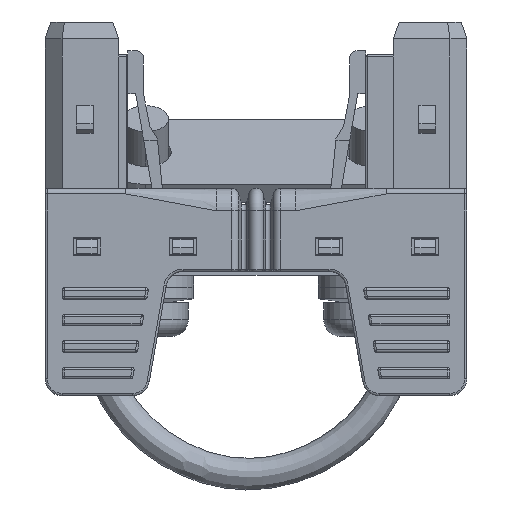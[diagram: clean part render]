
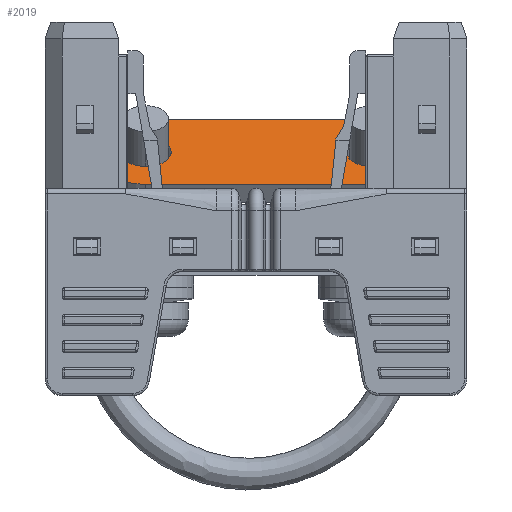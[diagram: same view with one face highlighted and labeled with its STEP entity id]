
A CAD part, front view. The second image highlights one B-rep face of the part: STEP entity #2019.
In plain terms, the highlighted planar face has unit normal (0, -0.574, 0.819).
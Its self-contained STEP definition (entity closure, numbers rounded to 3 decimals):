
#1658=CARTESIAN_POINT('',(10.25,166.862,-143.452));
#1659=DIRECTION('',(0.,0.574,-0.819));
#1660=DIRECTION('',(0.,0.819,0.574));
#1661=AXIS2_PLACEMENT_3D('',#1658,#1659,#1660);
#1663=CARTESIAN_POINT('',(-9.75,166.862,
-143.452));
#1664=DIRECTION('',(0.,0.574,-0.819));
#1665=DIRECTION('',(0.,-0.819,-0.574));
#1666=AXIS2_PLACEMENT_3D('',#1663,#1664,#1665);
#1668=CARTESIAN_POINT('',(10.25,166.862,-143.452));
#1669=DIRECTION('',(0.,-0.574,0.819));
#1670=DIRECTION('',(1.,0.,0.));
#1671=AXIS2_PLACEMENT_3D('',#1668,#1669,#1670);
#1673=CARTESIAN_POINT('',(10.25,166.862,-143.452));
#1674=DIRECTION('',(0.,-0.574,0.819));
#1675=DIRECTION('',(-1.,0.,0.));
#1676=AXIS2_PLACEMENT_3D('',#1673,#1674,#1675);
#1678=CARTESIAN_POINT('',(-9.75,166.862,
-143.452));
#1679=DIRECTION('',(0.,-0.574,0.819));
#1680=DIRECTION('',(1.,0.,0.));
#1681=AXIS2_PLACEMENT_3D('',#1678,#1679,#1680);
#1683=CARTESIAN_POINT('',(-9.75,166.862,
-143.452));
#1684=DIRECTION('',(0.,-0.574,0.819));
#1685=DIRECTION('',(-1.,0.,0.));
#1686=AXIS2_PLACEMENT_3D('',#1683,#1684,#1685);
#1692=DIRECTION('',(-1.,0.,0.));
#1693=VECTOR('',#1692,20.);
#1694=CARTESIAN_POINT('',(10.25,162.766,-146.32));
#1695=LINE('',#1694,#1693);
#1708=DIRECTION('',(1.,0.,0.));
#1709=VECTOR('',#1708,20.);
#1710=CARTESIAN_POINT('',(-9.75,170.958,
-140.584));
#1711=LINE('',#1710,#1709);
#1808=CARTESIAN_POINT('',(10.25,170.958,-140.584));
#1809=CARTESIAN_POINT('',(10.25,162.766,-146.32));
#1810=VERTEX_POINT('',#1808);
#1811=VERTEX_POINT('',#1809);
#1812=CARTESIAN_POINT('',(-9.75,170.958,
-140.584));
#1813=VERTEX_POINT('',#1812);
#1814=CARTESIAN_POINT('',(-9.75,162.766,-146.32));
#1815=VERTEX_POINT('',#1814);
#1816=CARTESIAN_POINT('',(12.5,166.862,-143.452));
#1817=CARTESIAN_POINT('',(8.,166.862,-143.452));
#1818=VERTEX_POINT('',#1816);
#1819=VERTEX_POINT('',#1817);
#1820=CARTESIAN_POINT('',(-7.5,166.862,
-143.452));
#1821=CARTESIAN_POINT('',(-12.,166.862,-143.452));
#1822=VERTEX_POINT('',#1820);
#1823=VERTEX_POINT('',#1821);
#1993=CARTESIAN_POINT('',(0.25,166.862,-143.452));
#1994=DIRECTION('',(0.,-0.574,0.819));
#1995=DIRECTION('',(1.,0.,0.));
#1996=AXIS2_PLACEMENT_3D('',#1993,#1994,#1995);
#1997=PLANE('',#1996);
#1998=ORIENTED_EDGE('',*,*,#1976,.T.);
#2000=ORIENTED_EDGE('',*,*,#1999,.T.);
#2002=ORIENTED_EDGE('',*,*,#2001,.T.);
#2004=ORIENTED_EDGE('',*,*,#2003,.T.);
#2005=EDGE_LOOP('',(#1998,#2000,#2002,#2004));
#2006=FACE_OUTER_BOUND('',#2005,.F.);
#2008=ORIENTED_EDGE('',*,*,#2007,.T.);
#2010=ORIENTED_EDGE('',*,*,#2009,.T.);
#2011=EDGE_LOOP('',(#2008,#2010));
#2012=FACE_BOUND('',#2011,.F.);
#2014=ORIENTED_EDGE('',*,*,#2013,.T.);
#2016=ORIENTED_EDGE('',*,*,#2015,.T.);
#2017=EDGE_LOOP('',(#2014,#2016));
#2018=FACE_BOUND('',#2017,.F.);
#1662=CIRCLE('',#1661,5.);
#1667=CIRCLE('',#1666,5.);
#1672=CIRCLE('',#1671,2.25);
#1677=CIRCLE('',#1676,2.25);
#1682=CIRCLE('',#1681,2.25);
#1687=CIRCLE('',#1686,2.25);
#1976=EDGE_CURVE('',#1810,#1811,#1662,.T.);
#1999=EDGE_CURVE('',#1811,#1815,#1695,.T.);
#2001=EDGE_CURVE('',#1815,#1813,#1667,.T.);
#2003=EDGE_CURVE('',#1813,#1810,#1711,.T.);
#2007=EDGE_CURVE('',#1818,#1819,#1672,.T.);
#2009=EDGE_CURVE('',#1819,#1818,#1677,.T.);
#2013=EDGE_CURVE('',#1822,#1823,#1682,.T.);
#2015=EDGE_CURVE('',#1823,#1822,#1687,.T.);
#2019=ADVANCED_FACE('',(#2006,#2012,#2018),#1997,.T.);
